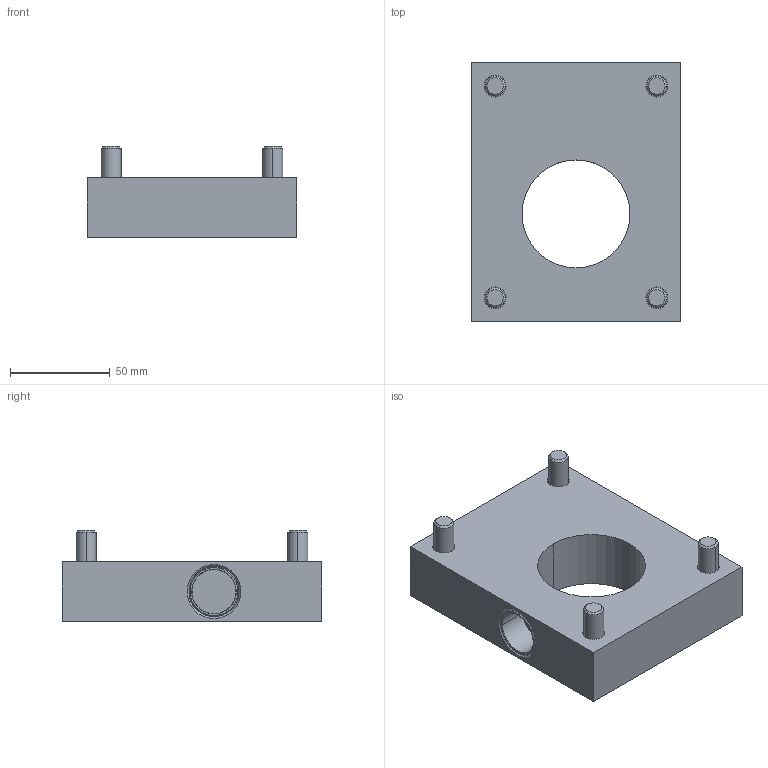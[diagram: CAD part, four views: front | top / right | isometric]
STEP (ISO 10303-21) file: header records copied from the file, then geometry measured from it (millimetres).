
FILE_DESCRIPTION (( 'STEP AP203' ), '1' );
FILE_NAME ('MJ3-KP(B2).STEP', '2024-01-16T09:28:24', ( '' ), ( '' ), 'SwSTEP 2.0', 'SolidWorks 2022', '' );
FILE_SCHEMA (( 'CONFIG_CONTROL_DESIGN' ));
Length unit declared in the file: millimetre
Products named in the file (1): MJ3-KP(B2)
Bounding box: 105 x 130 x 45.6 mm (x, y, z)
Volume: 328706.6 mm3; surface area: 61708.2 mm2
Topology: 7 solids, 7 shells, 150 faces, 350 edges, 220 vertices
Faces by surface type: plane 52, cylinder 46, cone 36, torus 16
Entity records: 4323 total; most frequent: DIRECTION 780, CARTESIAN_POINT 777, ORIENTED_EDGE 684, EDGE_CURVE 342, AXIS2_PLACEMENT_3D 319, VERTEX_POINT 220, EDGE_LOOP 178, CIRCLE 168
